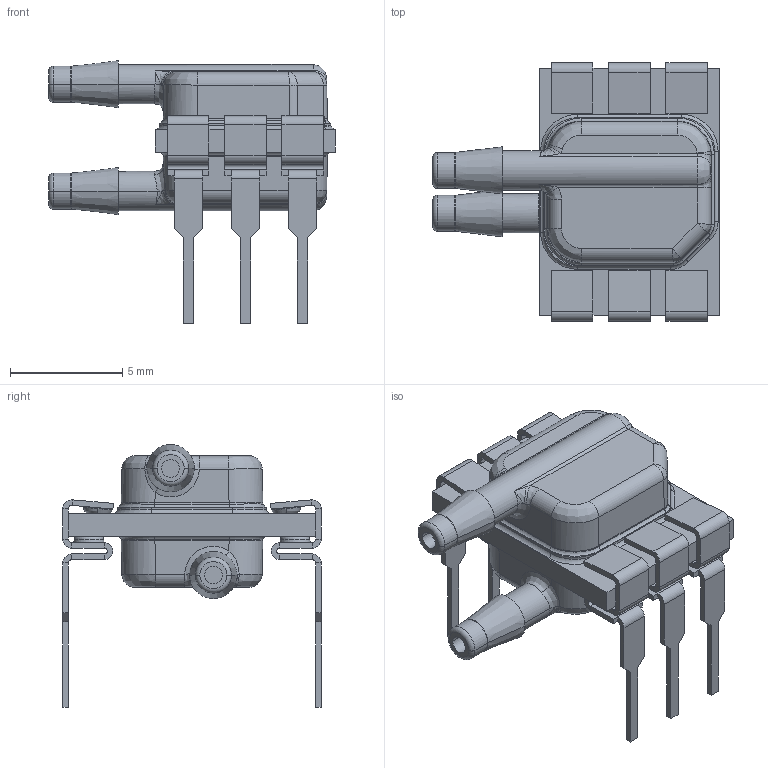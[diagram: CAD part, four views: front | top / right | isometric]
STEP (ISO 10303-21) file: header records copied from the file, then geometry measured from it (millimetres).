
FILE_DESCRIPTION((''),'2;1');
FILE_NAME('32304671_WET','2015-04-29T',('H116907'),(''),'PRO/ENGINEER BY PARAMETRIC TECHNOLOGY CORPORATION, 2013410','PRO/ENGINEER BY PARAMETRIC TECHNOLOGY CORPORATION, 2013410','');
FILE_SCHEMA(('CONFIG_CONTROL_DESIGN'));
Length unit declared in the file: millimetre
Products named in the file (1): 32304671_WET
Bounding box: 12.75 x 11.5 x 11.7 mm (x, y, z)
Volume: 357.7 mm3; surface area: 638.9 mm2
Topology: 1 solids, 1 shells, 506 faces, 1134 edges, 636 vertices
Faces by surface type: plane 277, cylinder 116, bspline 50, torus 35, cone 28
Entity records: 16333 total; most frequent: CARTESIAN_POINT 5312, DIRECTION 2279, ORIENTED_EDGE 2268, EDGE_CURVE 1134, AXIS2_PLACEMENT_3D 789, VECTOR 701, LINE 701, VERTEX_POINT 636
